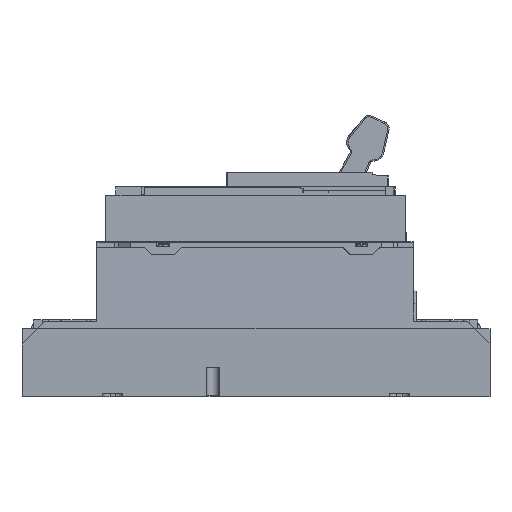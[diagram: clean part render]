
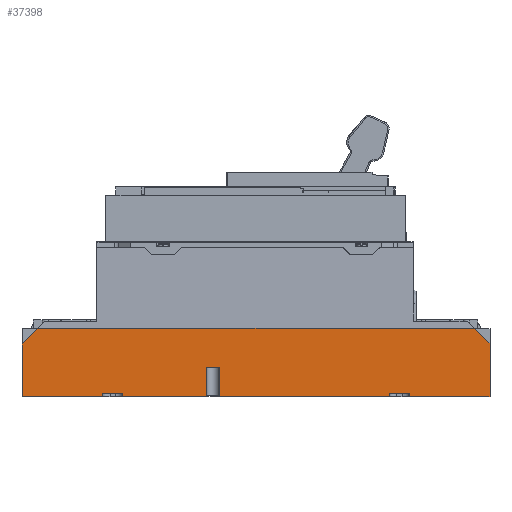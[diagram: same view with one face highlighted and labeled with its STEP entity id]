
A CAD part, left-side view. The second image highlights one B-rep face of the part: STEP entity #37398.
In plain terms, the highlighted planar face has unit normal (-1, 0, -0.017).
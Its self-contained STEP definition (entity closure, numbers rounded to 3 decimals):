
#9718=DIRECTION('',(0.,-1.,0.));
#9719=VECTOR('',#9718,304.454);
#9720=CARTESIAN_POINT('',(-70.003,315.552,47.738));
#9721=LINE('',#9720,#9719);
#9802=DIRECTION('',(-0.012,0.707,0.707));
#9803=VECTOR('',#9802,15.611);
#9804=CARTESIAN_POINT('',(-69.818,0.06,36.7));
#9805=LINE('',#9804,#9803);
#9809=DIRECTION('',(0.017,0.,-1.));
#9810=VECTOR('',#9809,36.705);
#9811=CARTESIAN_POINT('',(-69.818,0.06,36.7));
#9812=LINE('',#9811,#9810);
#9816=DIRECTION('',(0.,-1.,0.));
#9817=VECTOR('',#9816,56.39);
#9818=CARTESIAN_POINT('',(-69.203,56.45,0.));
#9819=LINE('',#9818,#9817);
#9823=DIRECTION('',(-0.017,0.,1.));
#9824=VECTOR('',#9823,2.2);
#9825=CARTESIAN_POINT('',(-69.203,56.45,0.));
#9826=LINE('',#9825,#9824);
#9830=DIRECTION('',(0.,1.,0.));
#9831=VECTOR('',#9830,13.7);
#9832=CARTESIAN_POINT('',(-69.24,56.45,2.2));
#9833=LINE('',#9832,#9831);
#9837=DIRECTION('',(-0.017,0.,1.));
#9838=VECTOR('',#9837,2.2);
#9839=CARTESIAN_POINT('',(-69.203,70.15,0.));
#9840=LINE('',#9839,#9838);
#9844=DIRECTION('',(0.,-1.,0.));
#9845=VECTOR('',#9844,118.89);
#9846=CARTESIAN_POINT('',(-69.203,189.04,0.));
#9847=LINE('',#9846,#9845);
#9851=DIRECTION('',(0.017,0.,-1.));
#9852=VECTOR('',#9851,20.503);
#9853=CARTESIAN_POINT('',(-69.547,189.04,20.5));
#9854=LINE('',#9853,#9852);
#9858=DIRECTION('',(0.,1.,0.));
#9859=VECTOR('',#9858,8.5);
#9860=CARTESIAN_POINT('',(-69.547,189.04,20.5));
#9861=LINE('',#9860,#9859);
#9865=DIRECTION('',(0.017,0.,-1.));
#9866=VECTOR('',#9865,20.503);
#9867=CARTESIAN_POINT('',(-69.547,197.54,20.5));
#9868=LINE('',#9867,#9866);
#9872=DIRECTION('',(0.,-1.,0.));
#9873=VECTOR('',#9872,58.9);
#9874=CARTESIAN_POINT('',(-69.203,256.44,0.));
#9875=LINE('',#9874,#9873);
#9879=DIRECTION('',(-0.017,0.,1.));
#9880=VECTOR('',#9879,2.2);
#9881=CARTESIAN_POINT('',(-69.203,256.44,0.));
#9882=LINE('',#9881,#9880);
#9886=DIRECTION('',(0.,1.,0.));
#9887=VECTOR('',#9886,13.7);
#9888=CARTESIAN_POINT('',(-69.24,256.44,2.2));
#9889=LINE('',#9888,#9887);
#9893=DIRECTION('',(-0.017,0.,1.));
#9894=VECTOR('',#9893,2.2);
#9895=CARTESIAN_POINT('',(-69.203,270.14,0.));
#9896=LINE('',#9895,#9894);
#9900=DIRECTION('',(0.,-1.,0.));
#9901=VECTOR('',#9900,56.45);
#9902=CARTESIAN_POINT('',(-69.203,326.59,0.));
#9903=LINE('',#9902,#9901);
#9907=DIRECTION('',(-0.017,0.,1.));
#9908=VECTOR('',#9907,36.705);
#9909=CARTESIAN_POINT('',(-69.203,326.59,0.));
#9910=LINE('',#9909,#9908);
#9914=DIRECTION('',(0.012,0.707,-0.707));
#9915=VECTOR('',#9914,15.611);
#9916=CARTESIAN_POINT('',(-70.003,315.552,47.738));
#9917=LINE('',#9916,#9915);
#27449=CARTESIAN_POINT('',(-69.547,197.54,20.5));
#27450=VERTEX_POINT('',#27449);
#27451=CARTESIAN_POINT('',(-69.547,189.04,20.5));
#27452=VERTEX_POINT('',#27451);
#27503=CARTESIAN_POINT('',(-69.203,256.44,0.));
#27504=VERTEX_POINT('',#27503);
#27505=CARTESIAN_POINT('',(-69.203,270.14,0.));
#27506=VERTEX_POINT('',#27505);
#27523=CARTESIAN_POINT('',(-69.203,56.45,0.));
#27524=VERTEX_POINT('',#27523);
#27525=CARTESIAN_POINT('',(-69.203,70.15,0.));
#27526=VERTEX_POINT('',#27525);
#27527=CARTESIAN_POINT('',(-69.24,256.44,2.2));
#27528=VERTEX_POINT('',#27527);
#27529=CARTESIAN_POINT('',(-69.24,270.14,2.2));
#27530=VERTEX_POINT('',#27529);
#27531=CARTESIAN_POINT('',(-69.24,56.45,2.2));
#27532=VERTEX_POINT('',#27531);
#27533=CARTESIAN_POINT('',(-69.24,70.15,2.2));
#27534=VERTEX_POINT('',#27533);
#28654=CARTESIAN_POINT('',(-69.818,326.59,36.7));
#28656=VERTEX_POINT('',#28654);
#28661=CARTESIAN_POINT('',(-70.003,315.552,
47.738));
#28662=VERTEX_POINT('',#28661);
#28663=CARTESIAN_POINT('',(-69.203,326.59,0.));
#28664=VERTEX_POINT('',#28663);
#28665=CARTESIAN_POINT('',(-69.818,0.06,36.7));
#28666=CARTESIAN_POINT('',(-70.003,11.098,
47.738));
#28667=VERTEX_POINT('',#28665);
#28668=VERTEX_POINT('',#28666);
#28675=CARTESIAN_POINT('',(-69.203,0.06,0.));
#28676=VERTEX_POINT('',#28675);
#28677=CARTESIAN_POINT('',(-69.203,197.54,0.));
#28678=VERTEX_POINT('',#28677);
#28679=CARTESIAN_POINT('',(-69.203,189.04,0.));
#28680=VERTEX_POINT('',#28679);
#37359=CARTESIAN_POINT('',(-69.203,326.59,0.));
#37360=DIRECTION('',(-1.,0.,-0.017));
#37361=DIRECTION('',(-0.017,0.,1.));
#37362=AXIS2_PLACEMENT_3D('',#37359,#37360,#37361);
#37363=PLANE('',#37362);
#37364=ORIENTED_EDGE('',*,*,#37349,.F.);
#37365=ORIENTED_EDGE('',*,*,#36495,.T.);
#37367=ORIENTED_EDGE('',*,*,#37366,.F.);
#37369=ORIENTED_EDGE('',*,*,#37368,.T.);
#37371=ORIENTED_EDGE('',*,*,#37370,.T.);
#37373=ORIENTED_EDGE('',*,*,#37372,.F.);
#37375=ORIENTED_EDGE('',*,*,#37374,.F.);
#37377=ORIENTED_EDGE('',*,*,#37376,.F.);
#37379=ORIENTED_EDGE('',*,*,#37378,.T.);
#37381=ORIENTED_EDGE('',*,*,#37380,.T.);
#37383=ORIENTED_EDGE('',*,*,#37382,.F.);
#37385=ORIENTED_EDGE('',*,*,#37384,.T.);
#37387=ORIENTED_EDGE('',*,*,#37386,.T.);
#37389=ORIENTED_EDGE('',*,*,#37388,.F.);
#37391=ORIENTED_EDGE('',*,*,#37390,.F.);
#37392=ORIENTED_EDGE('',*,*,#33509,.T.);
#37394=ORIENTED_EDGE('',*,*,#37393,.F.);
#37395=ORIENTED_EDGE('',*,*,#37318,.T.);
#37396=EDGE_LOOP('',(#37364,#37365,#37367,#37369,#37371,#37373,#37375,#37377,
#37379,#37381,#37383,#37385,#37387,#37389,#37391,#37392,#37394,#37395));
#37397=FACE_OUTER_BOUND('',#37396,.F.);
#33509=EDGE_CURVE('',#28664,#28656,#9910,.T.);
#36495=EDGE_CURVE('',#28667,#28676,#9812,.T.);
#37318=EDGE_CURVE('',#28662,#28668,#9721,.T.);
#37349=EDGE_CURVE('',#28667,#28668,#9805,.T.);
#37366=EDGE_CURVE('',#27524,#28676,#9819,.T.);
#37368=EDGE_CURVE('',#27524,#27532,#9826,.T.);
#37370=EDGE_CURVE('',#27532,#27534,#9833,.T.);
#37372=EDGE_CURVE('',#27526,#27534,#9840,.T.);
#37374=EDGE_CURVE('',#28680,#27526,#9847,.T.);
#37376=EDGE_CURVE('',#27452,#28680,#9854,.T.);
#37378=EDGE_CURVE('',#27452,#27450,#9861,.T.);
#37380=EDGE_CURVE('',#27450,#28678,#9868,.T.);
#37382=EDGE_CURVE('',#27504,#28678,#9875,.T.);
#37384=EDGE_CURVE('',#27504,#27528,#9882,.T.);
#37386=EDGE_CURVE('',#27528,#27530,#9889,.T.);
#37388=EDGE_CURVE('',#27506,#27530,#9896,.T.);
#37390=EDGE_CURVE('',#28664,#27506,#9903,.T.);
#37393=EDGE_CURVE('',#28662,#28656,#9917,.T.);
#37398=ADVANCED_FACE('',(#37397),#37363,.T.);
